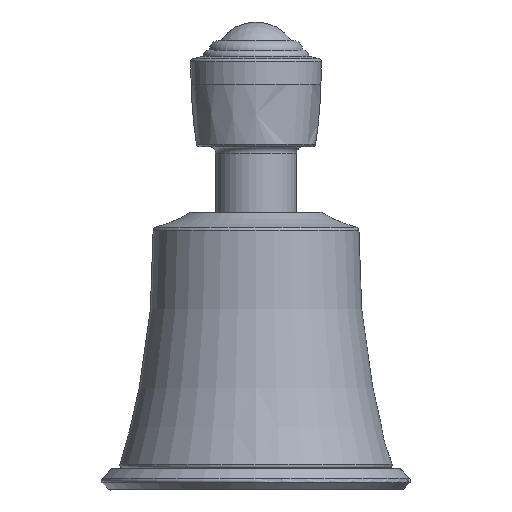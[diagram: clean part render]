
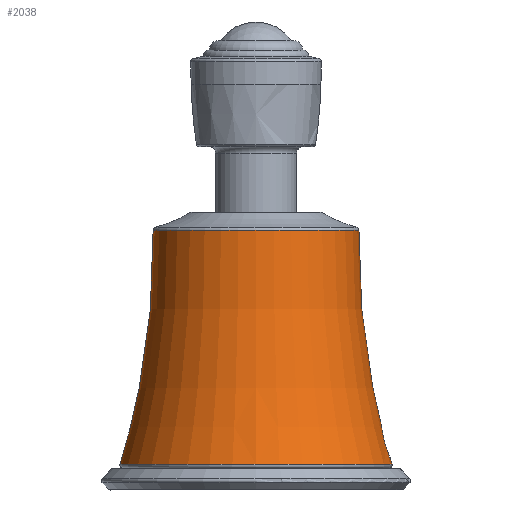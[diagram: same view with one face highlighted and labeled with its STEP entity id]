
A CAD part, left-side view. The second image highlights one B-rep face of the part: STEP entity #2038.
In plain terms, the highlighted toroidal (fillet/blend) face has major radius 136.474 mm and minor radius 120 mm.
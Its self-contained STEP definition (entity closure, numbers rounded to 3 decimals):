
#39=B_SPLINE_CURVE_WITH_KNOTS('',3,(#3746,#3747,#3748,#3749,#3750,#3751,
#3752,#3753,#3754,#3755,#3756,#3757,#3758,#3759,#3760,#3761,#3762,#3763,
#3764,#3765,#3766,#3767,#3768,#3769,#3770,#3771,#3772,#3773,#3774,#3775,
#3776,#3777,#3778),.UNSPECIFIED.,.F.,.F.,(4,2,2,2,2,2,2,3,2,2,2,2,2,2,2,
4),(-0.414,-0.405,-0.385,-0.357,
-0.297,-0.203,-0.102,0.,0.066,
0.138,0.224,0.329,0.37,0.393,
0.411,0.414),.UNSPECIFIED.);
#40=B_SPLINE_CURVE_WITH_KNOTS('',3,(#3779,#3780,#3781,#3782,#3783,#3784,
#3785,#3786,#3787,#3788,#3789,#3790,#3791,#3792,#3793,#3794,#3795,#3796,
#3797,#3798,#3799,#3800,#3801,#3802,#3803,#3804),.UNSPECIFIED.,.F.,.F.,
(4,2,2,2,2,2,2,2,2,2,2,2,4),(-1.256,-1.237,-1.201,
-1.1,-0.994,-0.894,-0.799,
-0.706,-0.612,-0.524,-0.454,
-0.425,-0.414),.UNSPECIFIED.);
#235=TOROIDAL_SURFACE('',#2299,136.474,120.);
#261=FACE_BOUND('',#462,.T.);
#331=FACE_OUTER_BOUND('',#461,.T.);
#461=EDGE_LOOP('',(#1612,#1613,#1614,#1615,#1616,#1617));
#462=EDGE_LOOP('',(#1618,#1619));
#646=CIRCLE('',#2295,21.798);
#648=CIRCLE('',#2297,21.798);
#649=CIRCLE('',#2300,16.492);
#650=CIRCLE('',#2301,120.);
#651=CIRCLE('',#2302,16.492);
#877=VERTEX_POINT('',#3737);
#878=VERTEX_POINT('',#3738);
#879=VERTEX_POINT('',#3743);
#880=VERTEX_POINT('',#3745);
#881=VERTEX_POINT('',#3806);
#882=VERTEX_POINT('',#3807);
#1141=EDGE_CURVE('',#877,#878,#646,.T.);
#1143=EDGE_CURVE('',#878,#877,#648,.T.);
#1145=EDGE_CURVE('',#880,#879,#39,.T.);
#1146=EDGE_CURVE('',#879,#880,#40,.T.);
#1147=EDGE_CURVE('',#881,#882,#649,.T.);
#1148=EDGE_CURVE('',#881,#878,#650,.T.);
#1149=EDGE_CURVE('',#882,#881,#651,.T.);
#1612=ORIENTED_EDGE('',*,*,#1147,.F.);
#1613=ORIENTED_EDGE('',*,*,#1148,.T.);
#1614=ORIENTED_EDGE('',*,*,#1141,.F.);
#1615=ORIENTED_EDGE('',*,*,#1143,.F.);
#1616=ORIENTED_EDGE('',*,*,#1148,.F.);
#1617=ORIENTED_EDGE('',*,*,#1149,.F.);
#1618=ORIENTED_EDGE('',*,*,#1146,.T.);
#1619=ORIENTED_EDGE('',*,*,#1145,.T.);
#2038=ADVANCED_FACE('',(#331,#261),#235,.F.);
#2295=AXIS2_PLACEMENT_3D('',#3739,#2853,#2854);
#2297=AXIS2_PLACEMENT_3D('',#3741,#2857,#2858);
#2299=AXIS2_PLACEMENT_3D('',#3805,#2862,#2863);
#2300=AXIS2_PLACEMENT_3D('',#3808,#2864,#2865);
#2301=AXIS2_PLACEMENT_3D('',#3809,#2866,#2867);
#2302=AXIS2_PLACEMENT_3D('',#3810,#2868,#2869);
#2853=DIRECTION('center_axis',(0.,0.,
-1.));
#2854=DIRECTION('ref_axis',(-1.,0.,0.));
#2857=DIRECTION('center_axis',(0.,0.,
-1.));
#2858=DIRECTION('ref_axis',(-1.,0.,0.));
#2862=DIRECTION('center_axis',(0.,0.,
1.));
#2863=DIRECTION('ref_axis',(1.,0.,0.));
#2864=DIRECTION('center_axis',(0.,0.,
1.));
#2865=DIRECTION('ref_axis',(-1.,0.,0.));
#2866=DIRECTION('center_axis',(0.,1.,0.));
#2867=DIRECTION('ref_axis',(-1.,0.,0.));
#2868=DIRECTION('center_axis',(0.,0.,
1.));
#2869=DIRECTION('ref_axis',(1.,0.,0.));
#3737=CARTESIAN_POINT('',(55.413,0.,-6.238));
#3738=CARTESIAN_POINT('',(11.816,0.,-6.238));
#3739=CARTESIAN_POINT('Origin',(33.614,0.,-6.238));
#3741=CARTESIAN_POINT('Origin',(33.614,0.,-6.238));
#3743=CARTESIAN_POINT('',(36.214,-20.655,-2.886));
#3745=CARTESIAN_POINT('',(31.014,-20.655,-2.886));
#3746=CARTESIAN_POINT('Ctrl Pts',(31.014,-20.655,-2.886));
#3747=CARTESIAN_POINT('Ctrl Pts',(31.014,-20.647,-2.855));
#3748=CARTESIAN_POINT('Ctrl Pts',(31.015,-20.638,-2.825));
#3749=CARTESIAN_POINT('Ctrl Pts',(31.018,-20.613,-2.731));
#3750=CARTESIAN_POINT('Ctrl Pts',(31.023,-20.595,-2.667));
#3751=CARTESIAN_POINT('Ctrl Pts',(31.039,-20.555,-2.514));
#3752=CARTESIAN_POINT('Ctrl Pts',(31.054,-20.533,-2.426));
#3753=CARTESIAN_POINT('Ctrl Pts',(31.114,-20.464,-2.148));
#3754=CARTESIAN_POINT('Ctrl Pts',(31.176,-20.422,-1.963));
#3755=CARTESIAN_POINT('Ctrl Pts',(31.39,-20.324,-1.505));
#3756=CARTESIAN_POINT('Ctrl Pts',(31.57,-20.276,-1.249));
#3757=CARTESIAN_POINT('Ctrl Pts',(32.031,-20.2,-0.797));
#3758=CARTESIAN_POINT('Ctrl Pts',(32.311,-20.173,-0.611));
#3759=CARTESIAN_POINT('Ctrl Pts',(32.935,-20.138,-0.353));
#3760=CARTESIAN_POINT('Ctrl Pts',(33.273,-20.13,-0.286));
#3761=CARTESIAN_POINT('Ctrl Pts',(33.614,-20.13,-0.286));
#3762=CARTESIAN_POINT('Ctrl Pts',(33.835,-20.13,-0.286));
#3763=CARTESIAN_POINT('Ctrl Pts',(34.055,-20.134,-0.314));
#3764=CARTESIAN_POINT('Ctrl Pts',(34.5,-20.148,-0.43));
#3765=CARTESIAN_POINT('Ctrl Pts',(34.721,-20.16,-0.521));
#3766=CARTESIAN_POINT('Ctrl Pts',(35.173,-20.199,-0.785));
#3767=CARTESIAN_POINT('Ctrl Pts',(35.393,-20.227,-0.969));
#3768=CARTESIAN_POINT('Ctrl Pts',(35.807,-20.312,-1.446));
#3769=CARTESIAN_POINT('Ctrl Pts',(35.977,-20.373,-1.749));
#3770=CARTESIAN_POINT('Ctrl Pts',(36.126,-20.478,-2.202));
#3771=CARTESIAN_POINT('Ctrl Pts',(36.158,-20.509,-2.333));
#3772=CARTESIAN_POINT('Ctrl Pts',(36.192,-20.562,-2.538));
#3773=CARTESIAN_POINT('Ctrl Pts',(36.201,-20.581,-2.613));
#3774=CARTESIAN_POINT('Ctrl Pts',(36.211,-20.616,-2.743));
#3775=CARTESIAN_POINT('Ctrl Pts',(36.213,-20.631,-2.799));
#3776=CARTESIAN_POINT('Ctrl Pts',(36.214,-20.65,-2.866));
#3777=CARTESIAN_POINT('Ctrl Pts',(36.214,-20.652,-2.876));
#3778=CARTESIAN_POINT('Ctrl Pts',(36.214,-20.655,-2.886));
#3779=CARTESIAN_POINT('Ctrl Pts',(36.214,-20.655,-2.886));
#3780=CARTESIAN_POINT('Ctrl Pts',(36.214,-20.672,-2.946));
#3781=CARTESIAN_POINT('Ctrl Pts',(36.212,-20.689,-3.007));
#3782=CARTESIAN_POINT('Ctrl Pts',(36.2,-20.74,-3.183));
#3783=CARTESIAN_POINT('Ctrl Pts',(36.184,-20.775,-3.298));
#3784=CARTESIAN_POINT('Ctrl Pts',(36.095,-20.908,-3.729));
#3785=CARTESIAN_POINT('Ctrl Pts',(35.97,-21.01,-4.032));
#3786=CARTESIAN_POINT('Ctrl Pts',(35.609,-21.209,-4.587));
#3787=CARTESIAN_POINT('Ctrl Pts',(35.37,-21.305,-4.834));
#3788=CARTESIAN_POINT('Ctrl Pts',(34.817,-21.455,-5.214));
#3789=CARTESIAN_POINT('Ctrl Pts',(34.513,-21.511,-5.348));
#3790=CARTESIAN_POINT('Ctrl Pts',(33.884,-21.571,-5.491));
#3791=CARTESIAN_POINT('Ctrl Pts',(33.57,-21.577,-5.504));
#3792=CARTESIAN_POINT('Ctrl Pts',(32.951,-21.541,-5.419));
#3793=CARTESIAN_POINT('Ctrl Pts',(32.655,-21.5,-5.322));
#3794=CARTESIAN_POINT('Ctrl Pts',(32.114,-21.382,-5.032));
#3795=CARTESIAN_POINT('Ctrl Pts',(31.875,-21.307,-4.842));
#3796=CARTESIAN_POINT('Ctrl Pts',(31.487,-21.144,-4.407));
#3797=CARTESIAN_POINT('Ctrl Pts',(31.336,-21.058,-4.169));
#3798=CARTESIAN_POINT('Ctrl Pts',(31.137,-20.902,-3.707));
#3799=CARTESIAN_POINT('Ctrl Pts',(31.076,-20.833,-3.491));
#3800=CARTESIAN_POINT('Ctrl Pts',(31.029,-20.739,-3.177));
#3801=CARTESIAN_POINT('Ctrl Pts',(31.02,-20.711,-3.084));
#3802=CARTESIAN_POINT('Ctrl Pts',(31.015,-20.675,-2.955));
#3803=CARTESIAN_POINT('Ctrl Pts',(31.014,-20.665,-2.921));
#3804=CARTESIAN_POINT('Ctrl Pts',(31.014,-20.655,-2.886));
#3805=CARTESIAN_POINT('Origin',(33.614,0.,29.11));
#3806=CARTESIAN_POINT('',(17.122,0.,31.216));
#3807=CARTESIAN_POINT('',(50.107,0.,31.216));
#3808=CARTESIAN_POINT('Origin',(33.614,0.,31.216));
#3809=CARTESIAN_POINT('Origin',(-102.86,0.,
29.11));
#3810=CARTESIAN_POINT('Origin',(33.614,0.,31.216));
